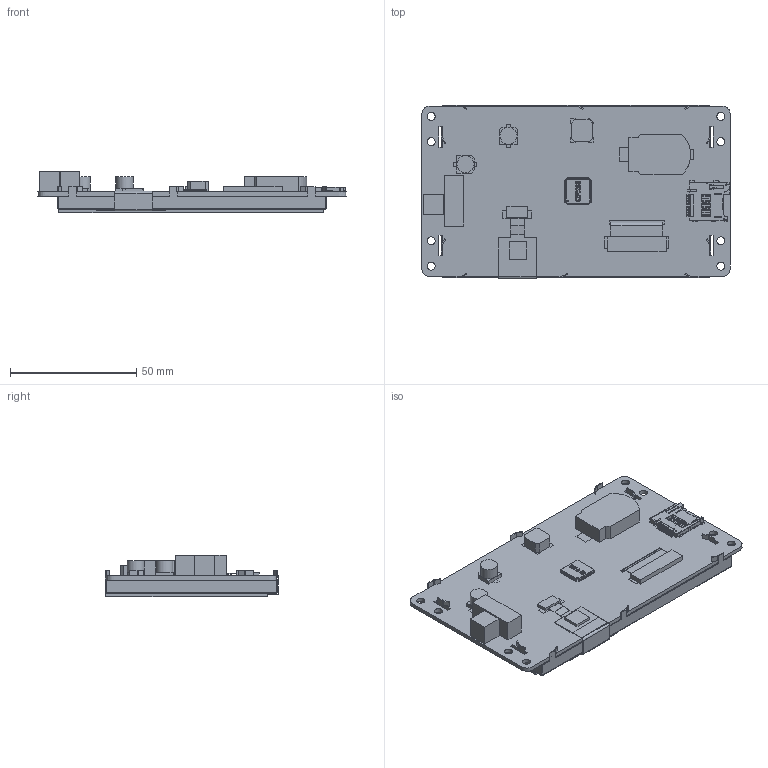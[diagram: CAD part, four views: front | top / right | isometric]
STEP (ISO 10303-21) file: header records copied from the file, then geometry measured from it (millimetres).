
FILE_DESCRIPTION(/* description */ (''),/* implementation_level */ '2;1');
FILE_NAME(/* name */ '',/* time_stamp */ '2022-04-19T14:32:54+08:00',/* author */ (''),/* organization */ (''),/* preprocessor_version */ 'ST-DEVELOPER v11',/* originating_system */ 'SIEMENS PLM Software NX 7.5',/* authorisation */ '');
FILE_SCHEMA (('AP203_CONFIGURATION_CONTROLLED_3D_DESIGN_OF_MECHANICAL_PARTS_AND_ASSEMBLIES_MIM_LF'));
Products named in the file (1): SDWb043T43C
Bounding box: 121.9 x 68.77 x 16.42 mm (x, y, z)
Volume: 29279.1 mm3; surface area: 45711.4 mm2
Topology: 21 solids, 21 shells, 2297 faces, 7382 edges, 6058 vertices
Faces by surface type: plane 1856, cylinder 432, bspline 7, cone 1, extrusion 1
Full cylindrical faces by diameter (mm): 3.2 x8, 6.776 x2
Entity records: 84614 total; most frequent: CARTESIAN_POINT 15046, ORIENTED_EDGE 13190, DIRECTION 12673, EDGE_CURVE 6595, VECTOR 6383, LINE 6382, VERTEX_POINT 4341, AXIS2_PLACEMENT_3D 3145
